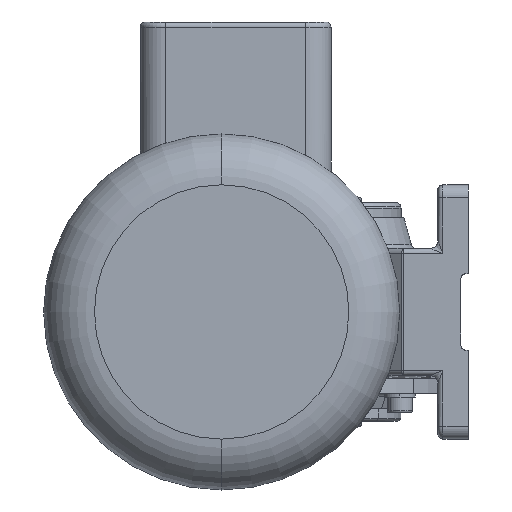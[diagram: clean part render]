
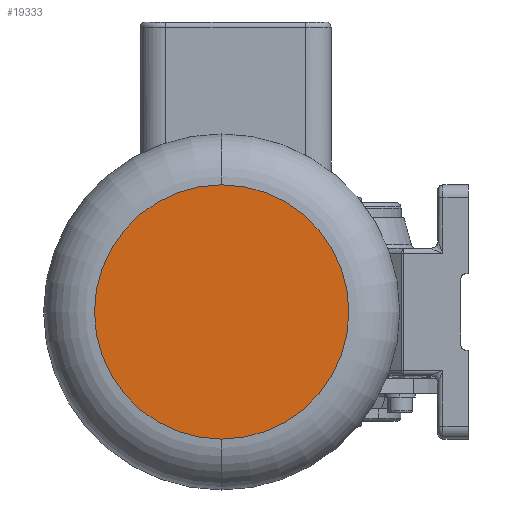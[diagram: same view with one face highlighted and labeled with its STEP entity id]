
A CAD part, left-side view. The second image highlights one B-rep face of the part: STEP entity #19333.
In plain terms, the highlighted planar face has unit normal (-1, 0, 0).
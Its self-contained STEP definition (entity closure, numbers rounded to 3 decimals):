
#603 = PLANE ( 'NONE',  #1541 ) ;
#673 = DIRECTION ( 'NONE',  ( 0., 0., 1. ) ) ;
#1541 = AXIS2_PLACEMENT_3D ( 'NONE', #9163, #12633, #21508 ) ;
#4246 = CIRCLE ( 'NONE', #20024, 50. ) ;
#4512 = DIRECTION ( 'NONE',  ( -1., 0., 0. ) ) ;
#4702 = EDGE_LOOP ( 'NONE', ( #16887, #15153 ) ) ;
#5895 = FACE_OUTER_BOUND ( 'NONE', #4702, .T. ) ;
#6225 = CARTESIAN_POINT ( 'NONE',  ( -378.378, 11.012, 0. ) ) ;
#6512 = CIRCLE ( 'NONE', #19031, 50. ) ;
#7127 = VERTEX_POINT ( 'NONE', #14733 ) ;
#7140 = EDGE_CURVE ( 'NONE', #21340, #7127, #6512, .T. ) ;
#9163 = CARTESIAN_POINT ( 'NONE',  ( -378.378, 11.012, 0. ) ) ;
#9330 = CARTESIAN_POINT ( 'NONE',  ( -378.378, 11.012, -50. ) ) ;
#12633 = DIRECTION ( 'NONE',  ( 1., 0., 0. ) ) ;
#14733 = CARTESIAN_POINT ( 'NONE',  ( -378.378, 11.012, 50. ) ) ;
#15153 = ORIENTED_EDGE ( 'NONE', *, *, #7140, .T. ) ;
#16887 = ORIENTED_EDGE ( 'NONE', *, *, #17436, .T. ) ;
#17436 = EDGE_CURVE ( 'NONE', #7127, #21340, #4246, .T. ) ;
#18192 = DIRECTION ( 'NONE',  ( 0., 0., 1. ) ) ;
#19031 = AXIS2_PLACEMENT_3D ( 'NONE', #6225, #4512, #18192 ) ;
#19333 = ADVANCED_FACE ( 'NONE', ( #5895 ), #603, .F. ) ;
#19452 = DIRECTION ( 'NONE',  ( -1., 0., 0. ) ) ;
#20024 = AXIS2_PLACEMENT_3D ( 'NONE', #22050, #19452, #673 ) ;
#21340 = VERTEX_POINT ( 'NONE', #9330 ) ;
#21508 = DIRECTION ( 'NONE',  ( 0., 0., 1. ) ) ;
#22050 = CARTESIAN_POINT ( 'NONE',  ( -378.378, 11.012, 0. ) ) ;
